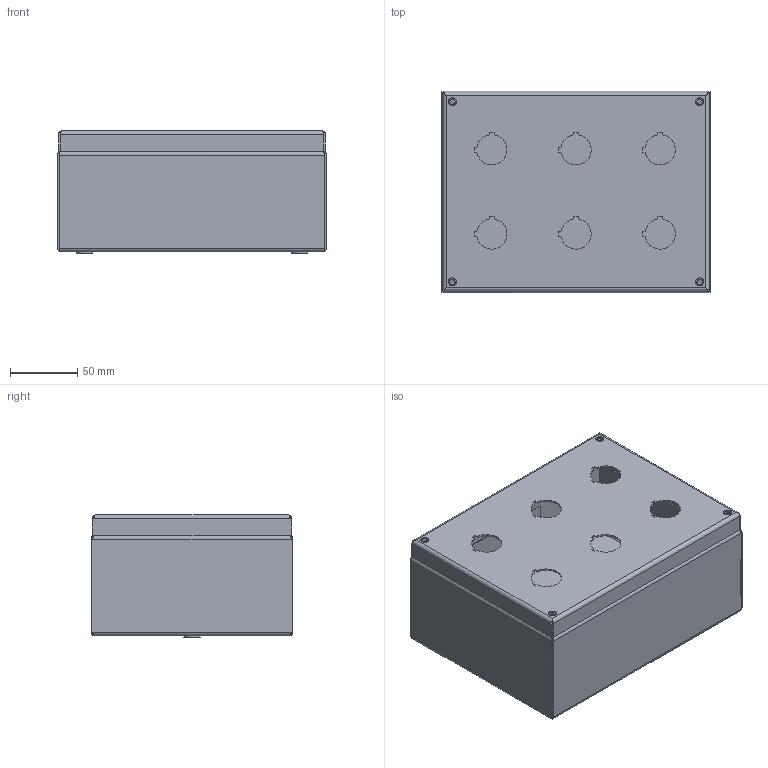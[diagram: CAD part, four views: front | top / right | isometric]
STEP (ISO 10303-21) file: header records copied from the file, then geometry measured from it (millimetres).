
FILE_DESCRIPTION(/* description */ ('www.inoxveneta.it','CAx-IF Rec.Pracs.---Representation and Presentation of Product Manufacturing Information (PMI)---4.0---2014-10-13','CAx-IF Rec.Pracs.---3D Tessellated Geometry---0.4---2014-09-14','2;1'),/* implementation_level */ '2;1');
FILE_NAME(/* name */ 'SCATOLA SCA01502009.6',/* time_stamp */ '2023-02-01T10:22:54+01:00',/* author */ ('Inoxveneta S.p.A '),/* organization */ ('Unknown'),/* preprocessor_version */ 'ST-DEVELOPER v18.102',/* originating_system */ 'Solid Edge',/* authorisation */ 'Unknown');
FILE_SCHEMA (('AP242_MANAGED_MODEL_BASED_3D_ENGINEERING_MIM_LF { 1 0 10303 442 1 1 4 }'));
Length unit declared in the file: millimetre
Products named in the file (12): SCA01502009.6; S000X001.06; S0000001.02; AE00511.01; S0000000.78; S0000000.02; AE00891.05; C0000000.08; S000X001.08; S0000001.04; AE00407.01; S0000000.04
Assembly tree (17 placements, depth 3):
  SCA01502009.6
    S000X001.06
      S0000001.02
      AE00511.01  x4
    S0000000.78  x2
    S0000000.02  x2
    AE00891.05  x2
    C0000000.08
    S000X001.08
      S0000001.04
      AE00407.01
    S0000000.04
Bounding box: 200 x 150 x 91 mm (x, y, z)
Volume: 185384.6 mm3; surface area: 291692.1 mm2
Topology: 15 solids, 15 shells, 558 faces, 1353 edges, 835 vertices
Faces by surface type: plane 348, cylinder 124, cone 49, bspline 24, torus 13
Full cylindrical faces by diameter (mm): 4.2 x6, 5 x3, 6 x4, 6.5 x1, 6.647 x2, 7 x4, 8 x2, 8.25 x2, 11 x2, 12 x2
Entity records: 12579 total; most frequent: CARTESIAN_POINT 2430, DIRECTION 1928, ORIENTED_EDGE 1872, EDGE_CURVE 936, LINE 648, VECTOR 648, AXIS2_PLACEMENT_3D 640, VERTEX_POINT 590
